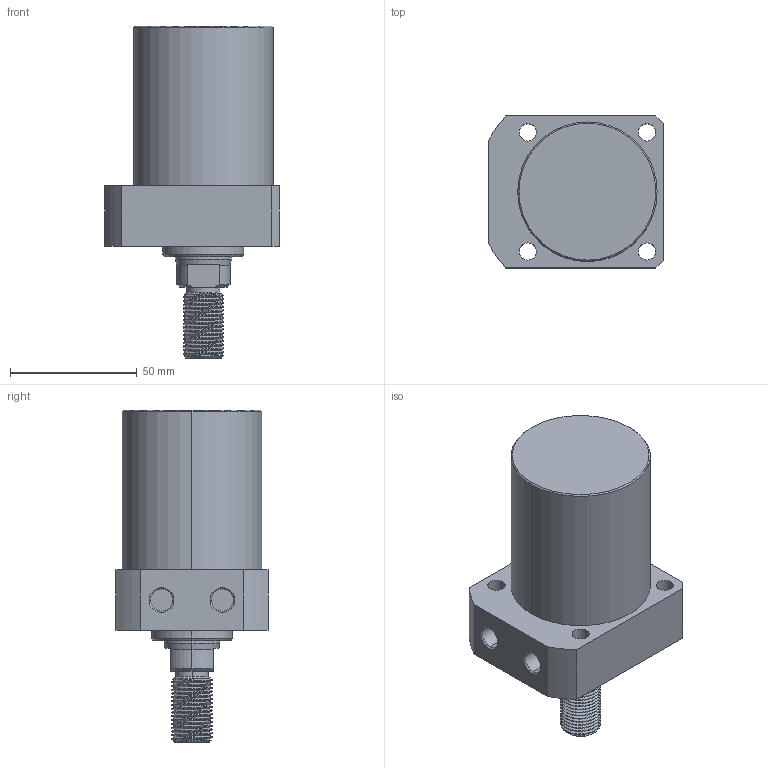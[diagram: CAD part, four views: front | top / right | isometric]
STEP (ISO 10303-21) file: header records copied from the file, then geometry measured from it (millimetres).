
FILE_DESCRIPTION (( 'STEP AP214' ), '1' );
FILE_NAME ('CLLR-055CT-050.STEP', '2020-01-09T00:30:06', ( 'Windows' ), ( 'Microsoft' ), 'SwSTEP 2.0', 'SolidWorks 2015', '' );
FILE_SCHEMA (( 'AUTOMOTIVE_DESIGN' ));
Length unit declared in the file: millimetre
Products named in the file (1): CLLR-055CT-050
Bounding box: 69 x 60 x 131 mm (x, y, z)
Volume: 254004.9 mm3; surface area: 30861.9 mm2
Topology: 1 solids, 1 shells, 102 faces, 263 edges, 171 vertices
Faces by surface type: cylinder 61, plane 20, cone 19, bspline 2
Entity records: 5080 total; most frequent: CARTESIAN_POINT 2709, ORIENTED_EDGE 526, DIRECTION 458, EDGE_CURVE 263, AXIS2_PLACEMENT_3D 179, VERTEX_POINT 171, EDGE_LOOP 118, FACE_OUTER_BOUND 102
